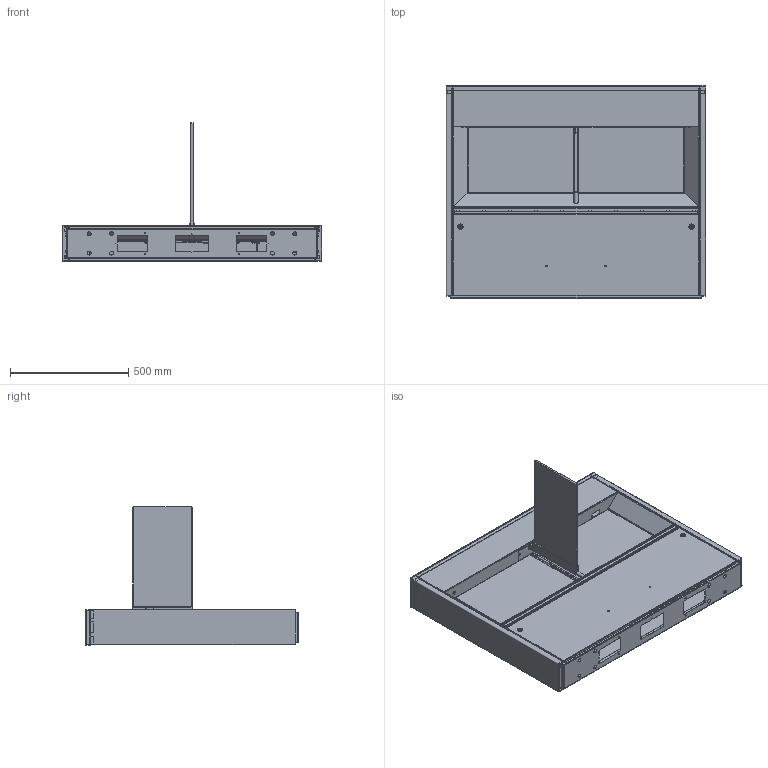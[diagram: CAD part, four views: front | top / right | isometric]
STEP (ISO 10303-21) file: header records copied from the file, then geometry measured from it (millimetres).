
FILE_DESCRIPTION (( 'STEP AP214' ), '1' );
FILE_NAME ('ライトゲート_サイド【ワイド】.STEP', '2023-02-20T06:54:11', ( 'cadcl' ), ( 'Hewlett-Packard Company' ), 'SwSTEP 2.0', 'SolidWorks 2022', '' );
FILE_SCHEMA (( 'AUTOMOTIVE_DESIGN' ));
Length unit declared in the file: millimetre
Products named in the file (48): 201-06292-34; 201-06292-45; 201-06291-02; 201-06294-91; 201-05997-02; 201-06292-56; 201-06292-90; 201-06291-28_デフォルト; 201-06291-31; 201-06291-58; 201-06290-02; 201-06291-14; 201-06291-30; 201-06291-09; 201-06291-29_デフォルト; 201-06292-43; 201-06295-50; 201-06290-15_面発光あり; 201-06292-65; 201-06291-75_閉状態; 201-06291-19; 201-06290-01; 201-06295-61; 201-06292-35; 201-06295-56; 201-06292-59; 201-06291-01; 201-06291-39; 301-06197-00_施錠; 201-06327-61; 201-06291-57; Z03-00314-00; ライトゲート_サイド【ワイド】; 201-06290-05; 201-06295-23; 201-06295-58; 201-06295-62; 201-06295-54; 201-06292-44; 201-06290-16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
Assembly tree (50 placements, depth 5):
  ライトゲート_サイド【ワイド】
    201-06291-83
      201-06292-56
        201-06291-02
          201-06291-01
      201-06291-14
        201-06291-09
        201-06290-01
      201-06291-57
        201-06295-50
        201-06290-01
      201-06295-23
        201-06295-54
        201-06295-56
        201-06290-00
      201-06291-19
        201-06295-29
        301-06197-00_施錠
        301-06197-01_施錠
      201-06291-31
        201-06291-30
      201-06292-34
        201-06292-35
      201-06292-65
        201-06290-02
      201-06291-43
        201-06292-45
      201-06291-75_閉状態
        201-06292-90
          201-06292-36
        201-06295-58
          201-06291-51
      201-06291-28_デフォルト
      201-06291-29_デフォルト
      201-06291-58
      201-06292-43
      Z03-00314-00  x2
    201-06291-39
      201-06290-16
        201-06290-15_面発光あり
    201-06292-44
    201-06294-91
      201-06290-02
    201-06327-61
      201-05997-02
    201-06290-05
    201-06295-61
      201-06291-78
    201-06295-62
      201-06292-59
Bounding box: 1100 x 900 x 585 mm (x, y, z)
Volume: 6080704.2 mm3; surface area: 6112663.1 mm2
Topology: 30 solids, 30 shells, 2638 faces, 6897 edges, 4322 vertices
Faces by surface type: plane 1782, cylinder 693, bspline 77, cone 74, sphere 12
Entity records: 79119 total; most frequent: CARTESIAN_POINT 16306, ORIENTED_EDGE 12814, DIRECTION 12169, EDGE_CURVE 6407, LINE 4845, VECTOR 4845, VERTEX_POINT 4007, AXIS2_PLACEMENT_3D 3662
